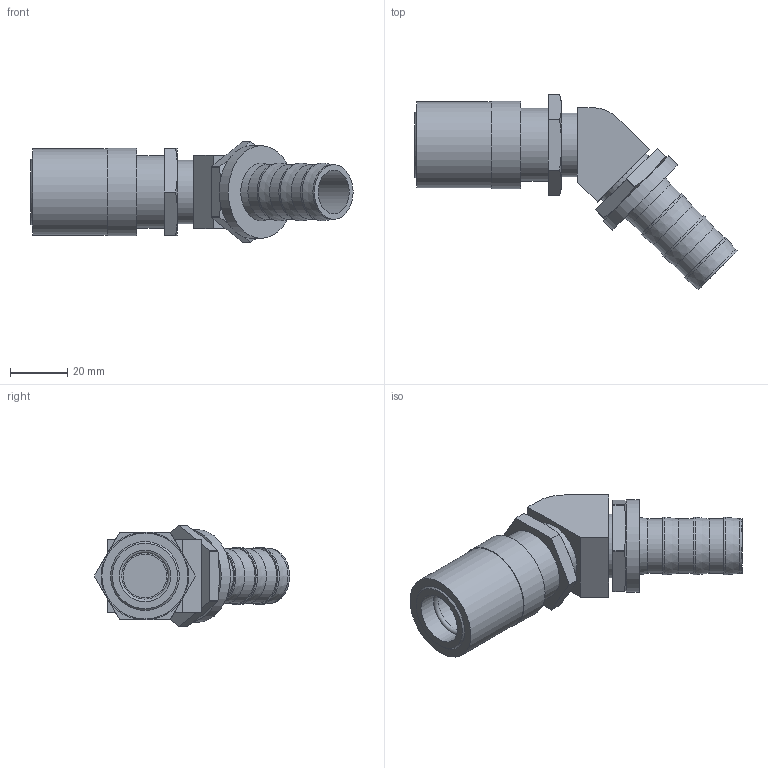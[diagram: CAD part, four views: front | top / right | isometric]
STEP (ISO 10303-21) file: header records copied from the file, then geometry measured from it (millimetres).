
FILE_DESCRIPTION(/* description */ ('STEP AP214'),/* implementation_level */ '2;1');
FILE_NAME(/* name */ 'JSL0526-V',/* time_stamp */ '2024-12-19T09:16:12+01:00',/* author */ ('License CC BY-ND 4.0'),/* organization */ ('CADENAS'),/* preprocessor_version */ 'ST-DEVELOPER v19.3',/* originating_system */ 'PARTsolutions',/* authorisation */ ' ');
FILE_SCHEMA (('AUTOMOTIVE_DESIGN {1 0 10303 214 3 1 1}'));
Length unit declared in the file: inch
Products named in the file (1): JSL0526-V
Bounding box: 112.22 x 68 x 35.04 mm (x, y, z)
Volume: 46949.3 mm3; surface area: 19661.5 mm2
Topology: 1 solids, 1 shells, 72 faces, 149 edges, 95 vertices
Faces by surface type: plane 35, cylinder 24, cone 12, torus 1
Full cylindrical faces by diameter (mm): 15.24 x2, 17.983 x2, 19.05 x4, 20.066 x3, 22.225 x2, 25.4 x1, 29.972 x1, 30.571 x1, 32.258 x1
Entity records: 1816 total; most frequent: CARTESIAN_POINT 347, DIRECTION 308, ORIENTED_EDGE 244, AXIS2_PLACEMENT_3D 131, EDGE_CURVE 122, EDGE_LOOP 112, FACE_BOUND 112, VERTEX_POINT 92
